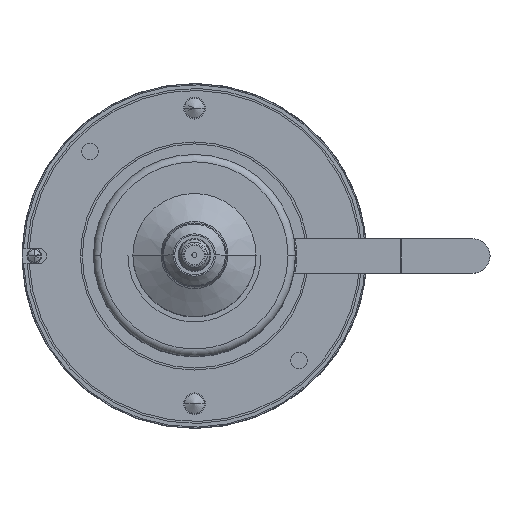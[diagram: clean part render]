
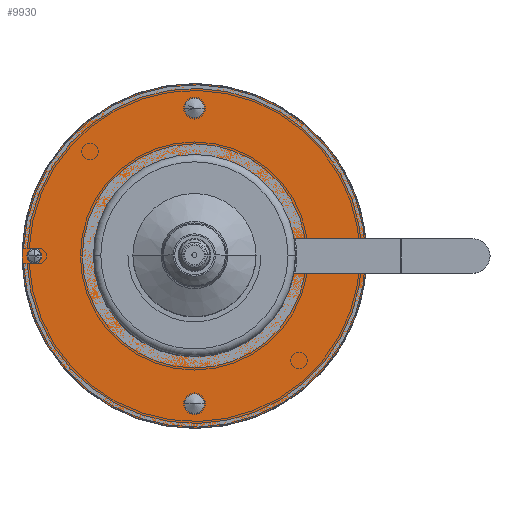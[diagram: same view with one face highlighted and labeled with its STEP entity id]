
A CAD part, top view. The second image highlights one B-rep face of the part: STEP entity #9930.
In plain terms, the highlighted planar face has unit normal (0, 0, 1).
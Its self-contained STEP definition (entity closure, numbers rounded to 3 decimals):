
#160 = DIRECTION ( 'NONE',  ( 0., 0., -1. ) ) ;
#217 = CARTESIAN_POINT ( 'NONE',  ( -65., 0., 32. ) ) ;
#224 = DIRECTION ( 'NONE',  ( 0., 0., -1. ) ) ;
#237 = DIRECTION ( 'NONE',  ( 0., 0., 1. ) ) ;
#280 = DIRECTION ( 'NONE',  ( -1., 0., 0. ) ) ;
#289 = CARTESIAN_POINT ( 'NONE',  ( 0., 60., 32. ) ) ;
#358 = CARTESIAN_POINT ( 'NONE',  ( 0., 0., 32. ) ) ;
#361 = DIRECTION ( 'NONE',  ( -1., 0., 0. ) ) ;
#372 = DIRECTION ( 'NONE',  ( 1., 0., 0. ) ) ;
#2416 = EDGE_CURVE ( 'NONE', #26590, #26560, #15423, .T. ) ;
#2419 = EDGE_CURVE ( 'NONE', #26590, #26616, #15427, .T. ) ;
#2448 = EDGE_CURVE ( 'NONE', #26531, #26389, #15471, .T. ) ;
#2459 = EDGE_CURVE ( 'NONE', #26560, #26283, #15491, .T. ) ;
#2485 = EDGE_CURVE ( 'NONE', #26547, #26616, #15523, .T. ) ;
#2502 = EDGE_CURVE ( 'NONE', #26540, #26429, #15549, .T. ) ;
#2550 = EDGE_CURVE ( 'NONE', #26422, #26448, #15622, .T. ) ;
#2555 = EDGE_CURVE ( 'NONE', #26284, #26415, #15628, .T. ) ;
#2562 = EDGE_CURVE ( 'NONE', #26283, #26389, #15636, .T. ) ;
#2618 = EDGE_CURVE ( 'NONE', #26429, #26540, #15717, .T. ) ;
#2704 = EDGE_CURVE ( 'NONE', #26415, #26284, #18319, .T. ) ;
#2711 = EDGE_CURVE ( 'NONE', #26531, #26547, #18339, .T. ) ;
#2717 = EDGE_CURVE ( 'NONE', #26448, #26422, #18356, .T. ) ;
#3709 = AXIS2_PLACEMENT_3D ( 'NONE', #19023, #19013, #19015 ) ;
#3714 = AXIS2_PLACEMENT_3D ( 'NONE', #18938, #18949, #18950 ) ;
#3729 = AXIS2_PLACEMENT_3D ( 'NONE', #19018, #18953, #18951 ) ;
#3734 = AXIS2_PLACEMENT_3D ( 'NONE', #10832, #10831, #10830 ) ;
#3777 = AXIS2_PLACEMENT_3D ( 'NONE', #11745, #12247, #11869 ) ;
#3781 = AXIS2_PLACEMENT_3D ( 'NONE', #11997, #12092, #12257 ) ;
#3785 = AXIS2_PLACEMENT_3D ( 'NONE', #12168, #12236, #12244 ) ;
#3825 = AXIS2_PLACEMENT_3D ( 'NONE', #289, #160, #361 ) ;
#3831 = AXIS2_PLACEMENT_3D ( 'NONE', #358, #224, #280 ) ;
#3832 = AXIS2_PLACEMENT_3D ( 'NONE', #217, #237, #372 ) ;
#3861 = AXIS2_PLACEMENT_3D ( 'NONE', #9196, #9187, #9230 ) ;
#4187 = FACE_BOUND ( 'NONE', #19414, .T. ) ;
#4188 = FACE_OUTER_BOUND ( 'NONE', #19507, .T. ) ;
#4189 = FACE_BOUND ( 'NONE', #19431, .T. ) ;
#4190 = FACE_BOUND ( 'NONE', #19529, .T. ) ;
#4549 = ORIENTED_EDGE ( 'NONE', *, *, #2550, .T. ) ;
#4550 = ORIENTED_EDGE ( 'NONE', *, *, #2717, .T. ) ;
#4551 = ORIENTED_EDGE ( 'NONE', *, *, #2419, .F. ) ;
#4552 = ORIENTED_EDGE ( 'NONE', *, *, #2416, .T. ) ;
#4553 = ORIENTED_EDGE ( 'NONE', *, *, #2459, .T. ) ;
#4554 = ORIENTED_EDGE ( 'NONE', *, *, #2562, .T. ) ;
#4555 = ORIENTED_EDGE ( 'NONE', *, *, #2448, .F. ) ;
#4556 = ORIENTED_EDGE ( 'NONE', *, *, #2711, .T. ) ;
#4557 = ORIENTED_EDGE ( 'NONE', *, *, #2485, .T. ) ;
#4558 = ORIENTED_EDGE ( 'NONE', *, *, #2704, .F. ) ;
#4559 = ORIENTED_EDGE ( 'NONE', *, *, #2555, .F. ) ;
#4560 = ORIENTED_EDGE ( 'NONE', *, *, #2618, .F. ) ;
#4561 = ORIENTED_EDGE ( 'NONE', *, *, #2502, .F. ) ;
#6953 = CARTESIAN_POINT ( 'NONE',  ( 0., -70., 32. ) ) ;
#6954 = CARTESIAN_POINT ( 'NONE',  ( -68., 0., 32. ) ) ;
#7059 = CARTESIAN_POINT ( 'NONE',  ( 69.649, -7., 32. ) ) ;
#7085 = CARTESIAN_POINT ( 'NONE',  ( -62., 0., 32. ) ) ;
#7092 = CARTESIAN_POINT ( 'NONE',  ( -4., 60., 32. ) ) ;
#7099 = CARTESIAN_POINT ( 'NONE',  ( -4., -60., 32. ) ) ;
#7118 = CARTESIAN_POINT ( 'NONE',  ( 4., 60., 32. ) ) ;
#7201 = CARTESIAN_POINT ( 'NONE',  ( 40.398, -7., 32. ) ) ;
#7210 = CARTESIAN_POINT ( 'NONE',  ( 4., -60., 32. ) ) ;
#7217 = CARTESIAN_POINT ( 'NONE',  ( -41., 0., 32. ) ) ;
#7230 = CARTESIAN_POINT ( 'NONE',  ( 0., 70., 32. ) ) ;
#7260 = CARTESIAN_POINT ( 'NONE',  ( 69.649, 7., 32. ) ) ;
#7286 = CARTESIAN_POINT ( 'NONE',  ( 40.398, 7., 32. ) ) ;
#9187 = DIRECTION ( 'NONE',  ( 0., 0., 1. ) ) ;
#9196 = CARTESIAN_POINT ( 'NONE',  ( 0., -60., 32. ) ) ;
#9230 = DIRECTION ( 'NONE',  ( -1., 0., 0. ) ) ;
#9930 = ADVANCED_FACE ( 'NONE', ( #4187, #4188, #4189, #4190 ), #19984, .T. ) ;
#10739 = DIRECTION ( 'NONE',  ( 1., 0., 0. ) ) ;
#10740 = CARTESIAN_POINT ( 'NONE',  ( 0., -7., 32. ) ) ;
#10824 = DIRECTION ( 'NONE',  ( -1., 0., 0. ) ) ;
#10825 = CARTESIAN_POINT ( 'NONE',  ( 0., 7., 32. ) ) ;
#10830 = DIRECTION ( 'NONE',  ( 0., 1., 0. ) ) ;
#10831 = DIRECTION ( 'NONE',  ( 0., 0., 1. ) ) ;
#10832 = CARTESIAN_POINT ( 'NONE',  ( 0., 0., 32. ) ) ;
#11745 = CARTESIAN_POINT ( 'NONE',  ( 0., 60., 32. ) ) ;
#11869 = DIRECTION ( 'NONE',  ( -1., 0., 0. ) ) ;
#11997 = CARTESIAN_POINT ( 'NONE',  ( -65., 0., 32. ) ) ;
#12092 = DIRECTION ( 'NONE',  ( 0., 0., 1. ) ) ;
#12168 = CARTESIAN_POINT ( 'NONE',  ( 0., 0., 32. ) ) ;
#12236 = DIRECTION ( 'NONE',  ( 0., 0., 1. ) ) ;
#12244 = DIRECTION ( 'NONE',  ( 0., 1., 0. ) ) ;
#12247 = DIRECTION ( 'NONE',  ( 0., 0., -1. ) ) ;
#12257 = DIRECTION ( 'NONE',  ( 1., 0., 0. ) ) ;
#15423 = CIRCLE ( 'NONE', #3734, 70. ) ;
#15427 = LINE ( 'NONE', #10825, #15428 ) ;
#15428 = VECTOR ( 'NONE', #10824, 1000. ) ;
#15471 = LINE ( 'NONE', #10740, #15473 ) ;
#15473 = VECTOR ( 'NONE', #10739, 1000. ) ;
#15491 = CIRCLE ( 'NONE', #3729, 70. ) ;
#15523 = CIRCLE ( 'NONE', #3714, 41. ) ;
#15549 = CIRCLE ( 'NONE', #3709, 4. ) ;
#15622 = CIRCLE ( 'NONE', #3777, 4. ) ;
#15628 = CIRCLE ( 'NONE', #3781, 3. ) ;
#15636 = CIRCLE ( 'NONE', #3785, 70. ) ;
#15717 = CIRCLE ( 'NONE', #3861, 4. ) ;
#18319 = CIRCLE ( 'NONE', #3832, 3. ) ;
#18339 = CIRCLE ( 'NONE', #3831, 41. ) ;
#18356 = CIRCLE ( 'NONE', #3825, 4. ) ;
#18938 = CARTESIAN_POINT ( 'NONE',  ( 0., 0., 32. ) ) ;
#18949 = DIRECTION ( 'NONE',  ( 0., 0., -1. ) ) ;
#18950 = DIRECTION ( 'NONE',  ( -1., 0., 0. ) ) ;
#18951 = DIRECTION ( 'NONE',  ( 0., 1., 0. ) ) ;
#18953 = DIRECTION ( 'NONE',  ( 0., 0., 1. ) ) ;
#19013 = DIRECTION ( 'NONE',  ( 0., 0., 1. ) ) ;
#19015 = DIRECTION ( 'NONE',  ( -1., 0., 0. ) ) ;
#19018 = CARTESIAN_POINT ( 'NONE',  ( 0., 0., 32. ) ) ;
#19023 = CARTESIAN_POINT ( 'NONE',  ( 0., -60., 32. ) ) ;
#19414 = EDGE_LOOP ( 'NONE', ( #4549, #4550 ) ) ;
#19431 = EDGE_LOOP ( 'NONE', ( #4558, #4559 ) ) ;
#19507 = EDGE_LOOP ( 'NONE', ( #4551, #4552, #4553, #4554, #4555, #4556, #4557 ) ) ;
#19529 = EDGE_LOOP ( 'NONE', ( #4560, #4561 ) ) ;
#19984 = PLANE ( 'NONE',  #22995 ) ;
#19985 = CARTESIAN_POINT ( 'NONE',  ( 0., 25., 32. ) ) ;
#19986 = DIRECTION ( 'NONE',  ( 0., 0., 1. ) ) ;
#19987 = DIRECTION ( 'NONE',  ( 0., 1., 0. ) ) ;
#22995 = AXIS2_PLACEMENT_3D ( 'NONE', #19985, #19986, #19987 ) ;
#26283 = VERTEX_POINT ( 'NONE', #6953 ) ;
#26284 = VERTEX_POINT ( 'NONE', #6954 ) ;
#26389 = VERTEX_POINT ( 'NONE', #7059 ) ;
#26415 = VERTEX_POINT ( 'NONE', #7085 ) ;
#26422 = VERTEX_POINT ( 'NONE', #7092 ) ;
#26429 = VERTEX_POINT ( 'NONE', #7099 ) ;
#26448 = VERTEX_POINT ( 'NONE', #7118 ) ;
#26531 = VERTEX_POINT ( 'NONE', #7201 ) ;
#26540 = VERTEX_POINT ( 'NONE', #7210 ) ;
#26547 = VERTEX_POINT ( 'NONE', #7217 ) ;
#26560 = VERTEX_POINT ( 'NONE', #7230 ) ;
#26590 = VERTEX_POINT ( 'NONE', #7260 ) ;
#26616 = VERTEX_POINT ( 'NONE', #7286 ) ;
